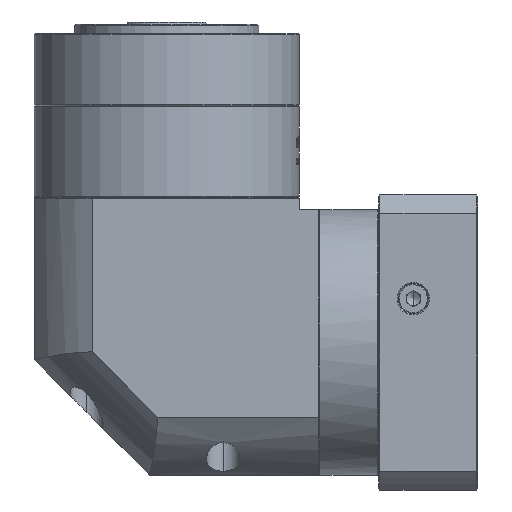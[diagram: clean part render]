
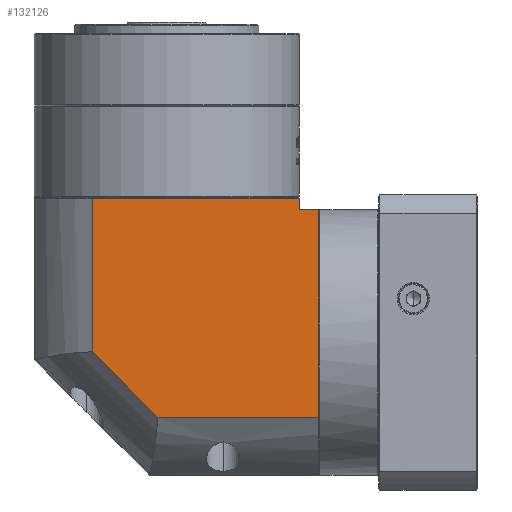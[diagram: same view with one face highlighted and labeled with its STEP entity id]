
A CAD part, left-side view. The second image highlights one B-rep face of the part: STEP entity #132126.
In plain terms, the highlighted planar face has unit normal (-1, 0, 0).
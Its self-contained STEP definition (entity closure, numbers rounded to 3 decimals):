
#2170 = EDGE_CURVE ( 'NONE', #158181, #55308, #105392, .T. ) ;
#6197 = DIRECTION ( 'NONE',  ( 0., 0., 1. ) ) ;
#6369 = VERTEX_POINT ( 'NONE', #118603 ) ;
#7184 = DIRECTION ( 'NONE',  ( 0., 1., 0. ) ) ;
#10287 = CARTESIAN_POINT ( 'NONE',  ( -275.738, 25.224, 55.93 ) ) ;
#17331 = CARTESIAN_POINT ( 'NONE',  ( -275.738, 25.224, 49.43 ) ) ;
#19501 = VECTOR ( 'NONE', #62256, 1000. ) ;
#23815 = CARTESIAN_POINT ( 'NONE',  ( -275.738, -28.214, -45.47 ) ) ;
#30200 = DIRECTION ( 'NONE',  ( 0., 0., -1. ) ) ;
#34662 = CARTESIAN_POINT ( 'NONE',  ( -275.738, 0.124, 55.93 ) ) ;
#34669 = AXIS2_PLACEMENT_3D ( 'NONE', #10287, #52966, #147999 ) ;
#46298 = CARTESIAN_POINT ( 'NONE',  ( -275.738, 0.124, -17.132 ) ) ;
#47399 = DIRECTION ( 'NONE',  ( 0., 0., 1. ) ) ;
#49164 = CARTESIAN_POINT ( 'NONE',  ( -275.738, -89.776, -70.57 ) ) ;
#50846 = EDGE_CURVE ( 'NONE', #54774, #158181, #118431, .T. ) ;
#51808 = VERTEX_POINT ( 'NONE', #81004 ) ;
#52966 = DIRECTION ( 'NONE',  ( 1., 0., 0. ) ) ;
#54774 = VERTEX_POINT ( 'NONE', #151937 ) ;
#55078 = VERTEX_POINT ( 'NONE', #77044 ) ;
#55308 = VERTEX_POINT ( 'NONE', #154116 ) ;
#62256 = DIRECTION ( 'NONE',  ( 0., 1., 0. ) ) ;
#62353 = CARTESIAN_POINT ( 'NONE',  ( -275.738, 25.224, -45.47 ) ) ;
#68132 = VECTOR ( 'NONE', #112401, 1000. ) ;
#69454 = ORIENTED_EDGE ( 'NONE', *, *, #159558, .F. ) ;
#75696 = VERTEX_POINT ( 'NONE', #156856 ) ;
#77044 = CARTESIAN_POINT ( 'NONE',  ( -275.738, -98.176, -45.47 ) ) ;
#81004 = CARTESIAN_POINT ( 'NONE',  ( -275.738, -98.176, 44.43 ) ) ;
#83604 = ORIENTED_EDGE ( 'NONE', *, *, #2170, .F. ) ;
#87513 = EDGE_CURVE ( 'NONE', #55308, #6369, #91501, .T. ) ;
#88709 = ORIENTED_EDGE ( 'NONE', *, *, #174608, .F. ) ;
#91501 = LINE ( 'NONE', #17331, #68132 ) ;
#97567 = VECTOR ( 'NONE', #7184, 1000. ) ;
#100417 = VECTOR ( 'NONE', #47399, 1000. ) ;
#105392 = LINE ( 'NONE', #34662, #175484 ) ;
#111599 = CARTESIAN_POINT ( 'NONE',  ( -275.738, -98.176, 55.93 ) ) ;
#112401 = DIRECTION ( 'NONE',  ( 0., -1., 0. ) ) ;
#118431 = LINE ( 'NONE', #23815, #150192 ) ;
#118603 = CARTESIAN_POINT ( 'NONE',  ( -275.738, -89.776, 49.43 ) ) ;
#119335 = CARTESIAN_POINT ( 'NONE',  ( -275.738, -89.776, 44.43 ) ) ;
#119570 = LINE ( 'NONE', #49164, #100417 ) ;
#130067 = VECTOR ( 'NONE', #30200, 1000. ) ;
#132126 = ADVANCED_FACE ( 'NONE', ( #157309 ), #145715, .F. ) ;
#136033 = DIRECTION ( 'NONE',  ( 0., 0.707, 0.707 ) ) ;
#145715 = PLANE ( 'NONE',  #34669 ) ;
#145958 = EDGE_CURVE ( 'NONE', #75696, #6369, #119570, .T. ) ;
#147999 = DIRECTION ( 'NONE',  ( 0., 1., 0. ) ) ;
#148523 = EDGE_LOOP ( 'NONE', ( #83604, #158592, #69454, #88709, #162188, #169064, #167759 ) ) ;
#150192 = VECTOR ( 'NONE', #136033, 1000. ) ;
#151937 = CARTESIAN_POINT ( 'NONE',  ( -275.738, -28.214, -45.47 ) ) ;
#154116 = CARTESIAN_POINT ( 'NONE',  ( -275.738, 0.124, 49.43 ) ) ;
#156856 = CARTESIAN_POINT ( 'NONE',  ( -275.738, -89.776, 44.43 ) ) ;
#157309 = FACE_OUTER_BOUND ( 'NONE', #148523, .T. ) ;
#158181 = VERTEX_POINT ( 'NONE', #46298 ) ;
#158592 = ORIENTED_EDGE ( 'NONE', *, *, #50846, .F. ) ;
#159558 = EDGE_CURVE ( 'NONE', #55078, #54774, #171916, .T. ) ;
#159792 = LINE ( 'NONE', #119335, #19501 ) ;
#162188 = ORIENTED_EDGE ( 'NONE', *, *, #168110, .T. ) ;
#167759 = ORIENTED_EDGE ( 'NONE', *, *, #87513, .F. ) ;
#168110 = EDGE_CURVE ( 'NONE', #51808, #75696, #159792, .T. ) ;
#168360 = LINE ( 'NONE', #111599, #130067 ) ;
#169064 = ORIENTED_EDGE ( 'NONE', *, *, #145958, .T. ) ;
#171916 = LINE ( 'NONE', #62353, #97567 ) ;
#174608 = EDGE_CURVE ( 'NONE', #51808, #55078, #168360, .T. ) ;
#175484 = VECTOR ( 'NONE', #6197, 1000. ) ;
